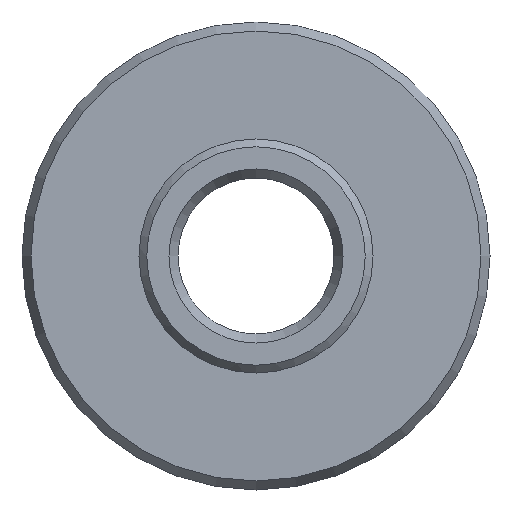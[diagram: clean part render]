
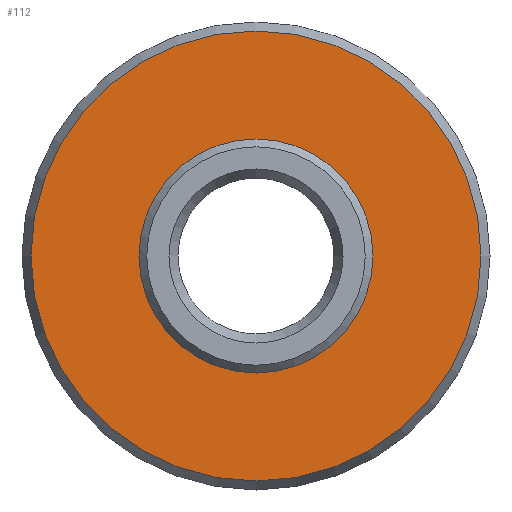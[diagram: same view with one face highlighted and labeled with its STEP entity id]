
A CAD part, left-side view. The second image highlights one B-rep face of the part: STEP entity #112.
In plain terms, the highlighted planar face has unit normal (-1, 0, 0).
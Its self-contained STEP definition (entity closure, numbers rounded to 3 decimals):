
#107=PLANE('',#279);
#112=ADVANCED_FACE('',(#131,#132),#107,.T.);
#131=FACE_BOUND('',#163,.T.);
#132=FACE_BOUND('',#164,.T.);
#163=EDGE_LOOP('',(#195));
#164=EDGE_LOOP('',(#196));
#195=ORIENTED_EDGE('',*,*,#243,.T.);
#196=ORIENTED_EDGE('',*,*,#244,.T.);
#227=VERTEX_POINT('',#379);
#228=VERTEX_POINT('',#381);
#243=EDGE_CURVE('',#227,#227,#259,.T.);
#244=EDGE_CURVE('',#228,#228,#260,.T.);
#259=CIRCLE('',#277,14.423);
#260=CIRCLE('',#278,7.5);
#277=AXIS2_PLACEMENT_3D('',#378,#314,#315);
#278=AXIS2_PLACEMENT_3D('',#380,#316,#317);
#279=AXIS2_PLACEMENT_3D('',#382,#318,#319);
#314=DIRECTION('',(-1.,0.,0.));
#315=DIRECTION('',(0.,0.,1.));
#316=DIRECTION('',(1.,0.,0.));
#317=DIRECTION('',(0.,0.,-1.));
#318=DIRECTION('',(-1.,0.,0.));
#319=DIRECTION('',(0.,0.,1.));
#378=CARTESIAN_POINT('',(0.,0.,0.));
#379=CARTESIAN_POINT('',(0.,0.,14.423));
#380=CARTESIAN_POINT('',(0.,0.,0.));
#381=CARTESIAN_POINT('',(0.,0.,-7.5));
#382=CARTESIAN_POINT('',(0.,15.,0.));
